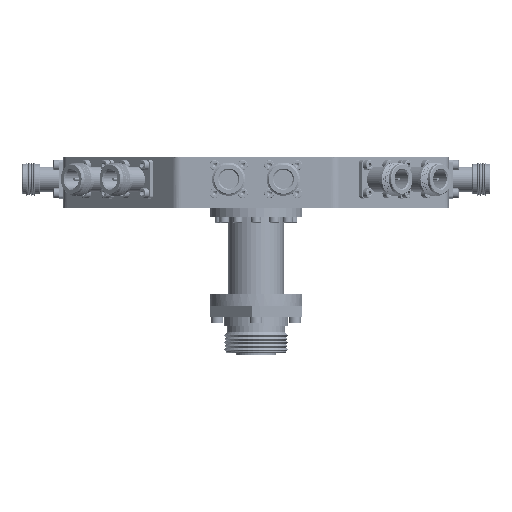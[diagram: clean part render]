
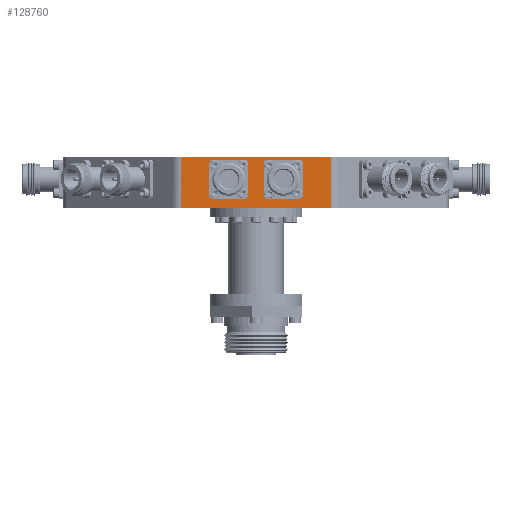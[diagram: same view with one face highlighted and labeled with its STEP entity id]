
A CAD part, left-side view. The second image highlights one B-rep face of the part: STEP entity #128760.
In plain terms, the highlighted planar face has unit normal (-1, 0, 0).
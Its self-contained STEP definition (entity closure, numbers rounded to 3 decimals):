
#3094=LINE('',#169682,#11286);
#3095=LINE('',#169686,#11287);
#3096=LINE('',#169690,#11288);
#3097=LINE('',#169694,#11289);
#3098=LINE('',#169698,#11290);
#3099=LINE('',#169702,#11291);
#3100=LINE('',#169706,#11292);
#3101=LINE('',#169710,#11293);
#3102=LINE('',#169711,#11294);
#3103=LINE('',#169714,#11295);
#3104=LINE('',#169716,#11296);
#3105=LINE('',#169718,#11297);
#3106=LINE('',#169720,#11298);
#3107=LINE('',#169722,#11299);
#3108=LINE('',#169724,#11300);
#3109=LINE('',#169726,#11301);
#11286=VECTOR('',#143877,1000.);
#11287=VECTOR('',#143880,1000.);
#11288=VECTOR('',#143883,1000.);
#11289=VECTOR('',#143886,1000.);
#11290=VECTOR('',#143889,1000.);
#11291=VECTOR('',#143892,1000.);
#11292=VECTOR('',#143895,1000.);
#11293=VECTOR('',#143898,1000.);
#11294=VECTOR('',#143899,1000.);
#11295=VECTOR('',#143900,1000.);
#11296=VECTOR('',#143901,1000.);
#11297=VECTOR('',#143902,1000.);
#11298=VECTOR('',#143903,1000.);
#11299=VECTOR('',#143904,1000.);
#11300=VECTOR('',#143905,1000.);
#11301=VECTOR('',#143906,1000.);
#19478=ORIENTED_EDGE('',*,*,#42660,.F.);
#19479=ORIENTED_EDGE('',*,*,#42661,.F.);
#19480=ORIENTED_EDGE('',*,*,#42662,.F.);
#19481=ORIENTED_EDGE('',*,*,#42663,.F.);
#19482=ORIENTED_EDGE('',*,*,#42664,.F.);
#19483=ORIENTED_EDGE('',*,*,#42665,.F.);
#19484=ORIENTED_EDGE('',*,*,#42666,.F.);
#19485=ORIENTED_EDGE('',*,*,#42667,.F.);
#19486=ORIENTED_EDGE('',*,*,#42668,.F.);
#19487=ORIENTED_EDGE('',*,*,#42669,.F.);
#19488=ORIENTED_EDGE('',*,*,#42670,.F.);
#19489=ORIENTED_EDGE('',*,*,#42671,.F.);
#19490=ORIENTED_EDGE('',*,*,#42672,.F.);
#19491=ORIENTED_EDGE('',*,*,#42673,.F.);
#19492=ORIENTED_EDGE('',*,*,#42674,.F.);
#19493=ORIENTED_EDGE('',*,*,#42675,.F.);
#19494=ORIENTED_EDGE('',*,*,#42676,.F.);
#19495=ORIENTED_EDGE('',*,*,#42677,.F.);
#19496=ORIENTED_EDGE('',*,*,#42678,.F.);
#19497=ORIENTED_EDGE('',*,*,#42679,.T.);
#19498=ORIENTED_EDGE('',*,*,#42680,.F.);
#19499=ORIENTED_EDGE('',*,*,#42681,.F.);
#19500=ORIENTED_EDGE('',*,*,#42682,.F.);
#19501=ORIENTED_EDGE('',*,*,#42683,.F.);
#42660=EDGE_CURVE('',#54251,#54252,#62940,.T.);
#42661=EDGE_CURVE('',#54253,#54251,#3094,.T.);
#42662=EDGE_CURVE('',#54254,#54253,#62941,.T.);
#42663=EDGE_CURVE('',#54255,#54254,#3095,.T.);
#42664=EDGE_CURVE('',#54256,#54255,#62942,.T.);
#42665=EDGE_CURVE('',#54257,#54256,#3096,.T.);
#42666=EDGE_CURVE('',#54258,#54257,#62943,.T.);
#42667=EDGE_CURVE('',#54252,#54258,#3097,.T.);
#42668=EDGE_CURVE('',#54259,#54260,#62944,.T.);
#42669=EDGE_CURVE('',#54261,#54259,#3098,.T.);
#42670=EDGE_CURVE('',#54262,#54261,#62945,.T.);
#42671=EDGE_CURVE('',#54263,#54262,#3099,.T.);
#42672=EDGE_CURVE('',#54264,#54263,#62946,.T.);
#42673=EDGE_CURVE('',#54265,#54264,#3100,.T.);
#42674=EDGE_CURVE('',#54266,#54265,#62947,.T.);
#42675=EDGE_CURVE('',#54260,#54266,#3101,.T.);
#42676=EDGE_CURVE('',#54267,#54268,#3102,.T.);
#42677=EDGE_CURVE('',#54269,#54267,#3103,.T.);
#42678=EDGE_CURVE('',#54270,#54269,#3104,.T.);
#42679=EDGE_CURVE('',#54270,#54271,#3105,.T.);
#42680=EDGE_CURVE('',#54272,#54271,#3106,.T.);
#42681=EDGE_CURVE('',#54273,#54272,#3107,.T.);
#42682=EDGE_CURVE('',#54274,#54273,#3108,.T.);
#42683=EDGE_CURVE('',#54268,#54274,#3109,.T.);
#54251=VERTEX_POINT('',#169680);
#54252=VERTEX_POINT('',#169681);
#54253=VERTEX_POINT('',#169683);
#54254=VERTEX_POINT('',#169685);
#54255=VERTEX_POINT('',#169687);
#54256=VERTEX_POINT('',#169689);
#54257=VERTEX_POINT('',#169691);
#54258=VERTEX_POINT('',#169693);
#54259=VERTEX_POINT('',#169696);
#54260=VERTEX_POINT('',#169697);
#54261=VERTEX_POINT('',#169699);
#54262=VERTEX_POINT('',#169701);
#54263=VERTEX_POINT('',#169703);
#54264=VERTEX_POINT('',#169705);
#54265=VERTEX_POINT('',#169707);
#54266=VERTEX_POINT('',#169709);
#54267=VERTEX_POINT('',#169712);
#54268=VERTEX_POINT('',#169713);
#54269=VERTEX_POINT('',#169715);
#54270=VERTEX_POINT('',#169717);
#54271=VERTEX_POINT('',#169719);
#54272=VERTEX_POINT('',#169721);
#54273=VERTEX_POINT('',#169723);
#54274=VERTEX_POINT('',#169725);
#62940=CIRCLE('',#135066,1.27);
#62941=CIRCLE('',#135067,1.27);
#62942=CIRCLE('',#135068,1.27);
#62943=CIRCLE('',#135069,1.27);
#62944=CIRCLE('',#135070,1.27);
#62945=CIRCLE('',#135071,1.27);
#62946=CIRCLE('',#135072,1.27);
#62947=CIRCLE('',#135073,1.27);
#65759=EDGE_LOOP('',(#19478,#19479,#19480,#19481,#19482,#19483,#19484,#19485));
#65760=EDGE_LOOP('',(#19486,#19487,#19488,#19489,#19490,#19491,#19492,#19493));
#65761=EDGE_LOOP('',(#19494,#19495,#19496,#19497,#19498,#19499,#19500,#19501));
#74381=FACE_BOUND('',#65759,.T.);
#74382=FACE_BOUND('',#65760,.T.);
#74383=FACE_BOUND('',#65761,.T.);
#83095=PLANE('',#135065);
#128760=ADVANCED_FACE('',(#74381,#74382,#74383),#83095,.F.);
#135065=AXIS2_PLACEMENT_3D('',#169678,#143873,#143874);
#135066=AXIS2_PLACEMENT_3D('',#169679,#143875,#143876);
#135067=AXIS2_PLACEMENT_3D('',#169684,#143878,#143879);
#135068=AXIS2_PLACEMENT_3D('',#169688,#143881,#143882);
#135069=AXIS2_PLACEMENT_3D('',#169692,#143884,#143885);
#135070=AXIS2_PLACEMENT_3D('',#169695,#143887,#143888);
#135071=AXIS2_PLACEMENT_3D('',#169700,#143890,#143891);
#135072=AXIS2_PLACEMENT_3D('',#169704,#143893,#143894);
#135073=AXIS2_PLACEMENT_3D('',#169708,#143896,#143897);
#143873=DIRECTION('',(1.,0.,0.));
#143874=DIRECTION('',(0.,0.,-1.));
#143875=DIRECTION('',(-1.,0.,0.));
#143876=DIRECTION('',(0.,-1.,0.));
#143877=DIRECTION('',(0.,0.,-1.));
#143878=DIRECTION('',(-1.,0.,0.));
#143879=DIRECTION('',(0.,-1.,0.));
#143880=DIRECTION('',(0.,1.,0.));
#143881=DIRECTION('',(-1.,0.,0.));
#143882=DIRECTION('',(0.,-1.,0.));
#143883=DIRECTION('',(0.,0.,1.));
#143884=DIRECTION('',(-1.,0.,0.));
#143885=DIRECTION('',(0.,-1.,0.));
#143886=DIRECTION('',(0.,-1.,0.));
#143887=DIRECTION('',(-1.,0.,0.));
#143888=DIRECTION('',(0.,-1.,0.));
#143889=DIRECTION('',(0.,0.,-1.));
#143890=DIRECTION('',(-1.,0.,0.));
#143891=DIRECTION('',(0.,-1.,0.));
#143892=DIRECTION('',(0.,1.,0.));
#143893=DIRECTION('',(-1.,0.,0.));
#143894=DIRECTION('',(0.,-1.,0.));
#143895=DIRECTION('',(0.,0.,1.));
#143896=DIRECTION('',(-1.,0.,0.));
#143897=DIRECTION('',(0.,-1.,0.));
#143898=DIRECTION('',(0.,-1.,0.));
#143899=DIRECTION('',(0.,-1.,0.));
#143900=DIRECTION('',(0.,0.,1.));
#143901=DIRECTION('',(0.,1.,0.));
#143902=DIRECTION('',(0.,0.,1.));
#143903=DIRECTION('',(0.,-1.,0.));
#143904=DIRECTION('',(0.,-1.,0.));
#143905=DIRECTION('',(0.,-1.,0.));
#143906=DIRECTION('',(0.,-1.,0.));
#169678=CARTESIAN_POINT('',(-87.095,36.076,-11.));
#169679=CARTESIAN_POINT('',(-87.095,19.82,-11.345));
#169680=CARTESIAN_POINT('',(-87.095,21.09,-11.345));
#169681=CARTESIAN_POINT('',(-87.095,19.82,-12.615));
#169682=CARTESIAN_POINT('',(-87.095,21.09,4.885));
#169683=CARTESIAN_POINT('',(-87.095,21.09,3.615));
#169684=CARTESIAN_POINT('',(-87.095,19.82,3.615));
#169685=CARTESIAN_POINT('',(-87.095,19.82,4.885));
#169686=CARTESIAN_POINT('',(-87.095,3.59,4.885));
#169687=CARTESIAN_POINT('',(-87.095,4.86,4.885));
#169688=CARTESIAN_POINT('',(-87.095,4.86,3.615));
#169689=CARTESIAN_POINT('',(-87.095,3.59,3.615));
#169690=CARTESIAN_POINT('',(-87.095,3.59,-12.615));
#169691=CARTESIAN_POINT('',(-87.095,3.59,-11.345));
#169692=CARTESIAN_POINT('',(-87.095,4.86,-11.345));
#169693=CARTESIAN_POINT('',(-87.095,4.86,-12.615));
#169694=CARTESIAN_POINT('',(-87.095,21.09,-12.615));
#169695=CARTESIAN_POINT('',(-87.095,-4.86,-11.345));
#169696=CARTESIAN_POINT('',(-87.095,-3.59,-11.345));
#169697=CARTESIAN_POINT('',(-87.095,-4.86,-12.615));
#169698=CARTESIAN_POINT('',(-87.095,-3.59,4.885));
#169699=CARTESIAN_POINT('',(-87.095,-3.59,3.615));
#169700=CARTESIAN_POINT('',(-87.095,-4.86,3.615));
#169701=CARTESIAN_POINT('',(-87.095,-4.86,4.885));
#169702=CARTESIAN_POINT('',(-87.095,-21.09,4.885));
#169703=CARTESIAN_POINT('',(-87.095,-19.82,4.885));
#169704=CARTESIAN_POINT('',(-87.095,-19.82,3.615));
#169705=CARTESIAN_POINT('',(-87.095,-21.09,3.615));
#169706=CARTESIAN_POINT('',(-87.095,-21.09,-12.615));
#169707=CARTESIAN_POINT('',(-87.095,-21.09,-11.345));
#169708=CARTESIAN_POINT('',(-87.095,-19.82,-11.345));
#169709=CARTESIAN_POINT('',(-87.095,-19.82,-12.615));
#169710=CARTESIAN_POINT('',(-87.095,-3.59,-12.615));
#169711=CARTESIAN_POINT('',(-87.095,36.076,6.));
#169712=CARTESIAN_POINT('',(-87.095,34.005,6.));
#169713=CARTESIAN_POINT('',(-87.095,22.041,6.));
#169714=CARTESIAN_POINT('',(-87.095,34.005,-11.));
#169715=CARTESIAN_POINT('',(-87.095,34.005,-17.));
#169716=CARTESIAN_POINT('',(-87.095,36.076,-17.));
#169717=CARTESIAN_POINT('',(-87.095,-34.005,-17.));
#169718=CARTESIAN_POINT('',(-87.095,-34.005,-11.));
#169719=CARTESIAN_POINT('',(-87.095,-34.005,6.));
#169720=CARTESIAN_POINT('',(-87.095,36.076,6.));
#169721=CARTESIAN_POINT('',(-87.095,-22.041,6.));
#169722=CARTESIAN_POINT('',(-87.095,36.076,6.));
#169723=CARTESIAN_POINT('',(-87.095,-3.,6.));
#169724=CARTESIAN_POINT('',(-87.095,36.076,6.));
#169725=CARTESIAN_POINT('',(-87.095,3.,6.));
#169726=CARTESIAN_POINT('',(-87.095,36.076,6.));
